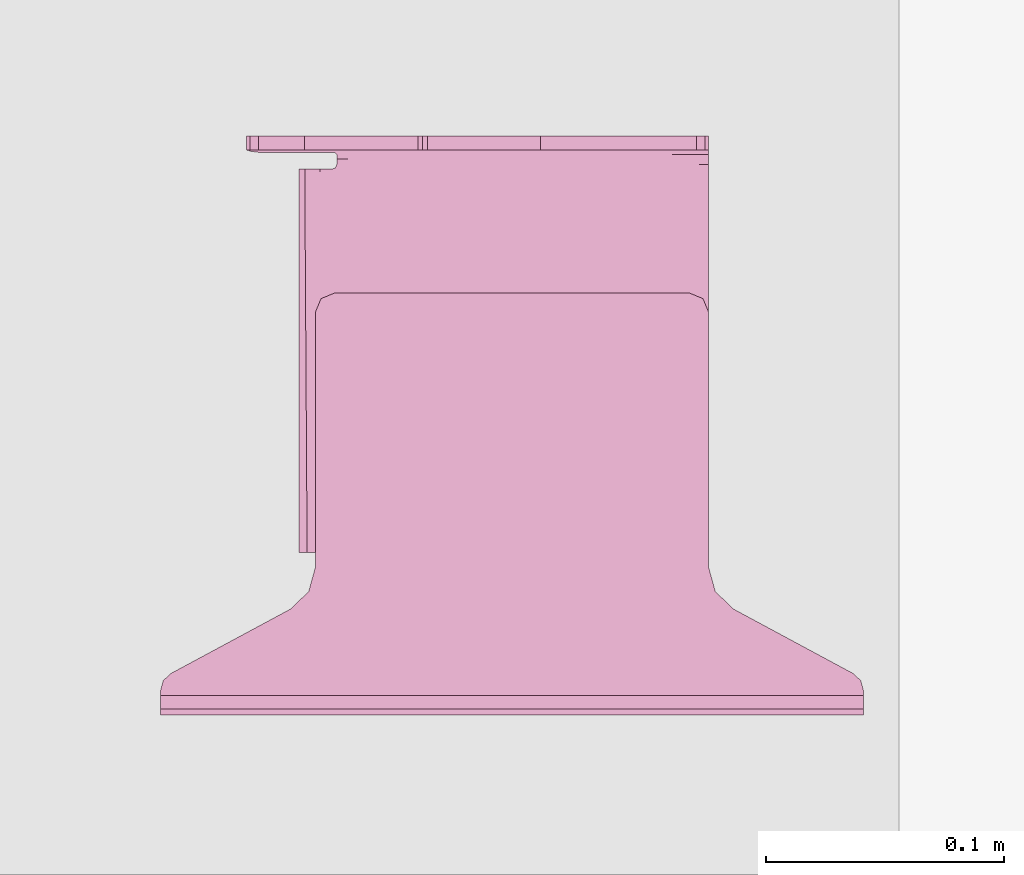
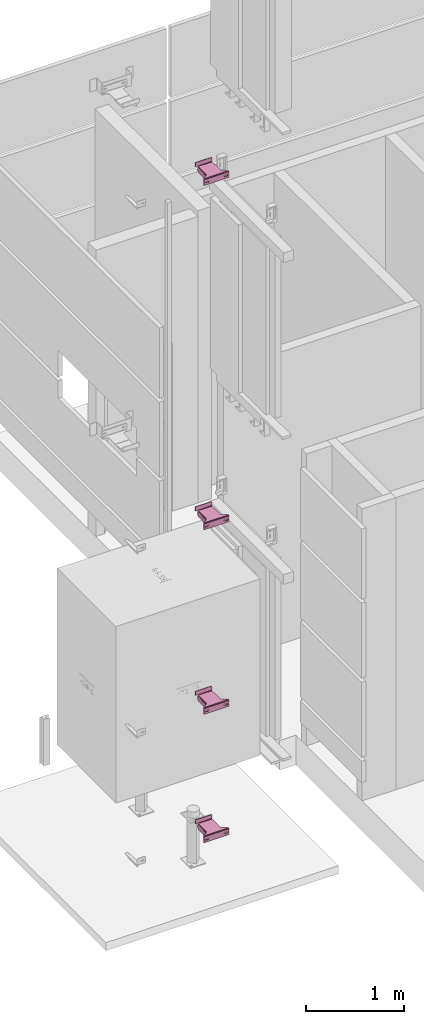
# One storey, part 11 of 15: 4 transport elements.
"""IFC2X3 building model written with IfcOpenShell, lengths in millimetres."""

from ifc_helpers import new_model, entity, si_unit, converted_unit, derived_unit, direction, frame, origin, place, context, subcontext, project, spatial, faceted_brep, source, transform, mapped, material, type_object, type_shapes, element, save


model = new_model("IFC2X3")

# Units and contexts
model_context = context("Model", 3, precision=0.01, world=origin(), true_north=direction((6.12303176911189e-17, 1.0)))
body_context = subcontext(model_context, "Body", "Model", "MODEL_VIEW")
ifc_project = project(units=[si_unit("LENGTHUNIT", "METRE", prefix="MILLI"), si_unit("AREAUNIT", "SQUARE_METRE"), si_unit("VOLUMEUNIT", "CUBIC_METRE"), converted_unit("PLANEANGLEUNIT", "DEGREE", entity("IfcRatioMeasure", 0.0174532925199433), si_unit("PLANEANGLEUNIT", "RADIAN"), dimensions=[0, 0, 0, 0, 0, 0, 0]), si_unit("MASSUNIT", "GRAM", prefix="KILO"), derived_unit("MASSDENSITYUNIT", [(si_unit("MASSUNIT", "GRAM", prefix="KILO"), 1), (si_unit("LENGTHUNIT", "METRE"), -3)]), si_unit("TIMEUNIT", "SECOND"), si_unit("FREQUENCYUNIT", "HERTZ"), si_unit("THERMODYNAMICTEMPERATUREUNIT", "DEGREE_CELSIUS"), derived_unit("THERMALTRANSMITTANCEUNIT", [(si_unit("MASSUNIT", "GRAM", prefix="KILO"), 1), (si_unit("THERMODYNAMICTEMPERATUREUNIT", "KELVIN"), -1), (si_unit("TIMEUNIT", "SECOND"), -3)]), derived_unit("VOLUMETRICFLOWRATEUNIT", [(si_unit("LENGTHUNIT", "METRE"), 3), (si_unit("TIMEUNIT", "SECOND"), -1)]), si_unit("ELECTRICCURRENTUNIT", "AMPERE"), si_unit("ELECTRICVOLTAGEUNIT", "VOLT"), si_unit("POWERUNIT", "WATT"), si_unit("FORCEUNIT", "NEWTON", prefix="KILO"), si_unit("ILLUMINANCEUNIT", "LUX"), si_unit("LUMINOUSFLUXUNIT", "LUMEN"), si_unit("LUMINOUSINTENSITYUNIT", "CANDELA"), derived_unit("USERDEFINED", [(si_unit("MASSUNIT", "GRAM", prefix="KILO"), -1), (si_unit("LENGTHUNIT", "METRE"), -2), (si_unit("TIMEUNIT", "SECOND"), 3), (si_unit("LUMINOUSFLUXUNIT", "LUMEN"), 1)]), derived_unit("LINEARVELOCITYUNIT", [(si_unit("LENGTHUNIT", "METRE"), 1), (si_unit("TIMEUNIT", "SECOND"), -1)]), si_unit("PRESSUREUNIT", "PASCAL"), derived_unit("USERDEFINED", [(si_unit("LENGTHUNIT", "METRE"), -2), (si_unit("MASSUNIT", "GRAM", prefix="KILO"), 1), (si_unit("TIMEUNIT", "SECOND"), -2)])], contexts=[model_context])

# Site, building, storey
site_placement = place(None, frame((-151.875543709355, 2715.0, 0.0)))
site = spatial("IfcSite", under=ifc_project, at=site_placement, Name="Surface", CompositionType="ELEMENT")
building_placement = place(site_placement, origin())
building = spatial("IfcBuilding", under=site, at=building_placement, CompositionType="ELEMENT")
storey_placement = place(building_placement, frame((0.0, 0.0, -135.0)))
storey = spatial("IfcBuildingStorey", under=building, at=storey_placement, Name="uus 1 korrus", CompositionType="ELEMENT", Elevation=-134.99999999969)

# Transport element
ifc_material = material(Name="Generic")
transport_element_type = type_object("IfcTransportElementType", Name="KONE_Combination_Bracket_KM51029396V002_L184-394_LH", material=ifc_material)
shared_shape = source(origin(), body_context, "Body", "Brep", [
    faceted_brep([(194.368600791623, 50.557014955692, -243.0), (197.904134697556, 49.0925488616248, -243.0), (199.368600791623, 45.5570149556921, -243.0), (199.368600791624, 2.55701495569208, -243.0), (5.401799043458, 2.55701495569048, -243.0), (5.37690725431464, 2.84414737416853, -243.0), (5.36860079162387, 3.13223699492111, -243.0), (5.36860079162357, 45.5570149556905, -243.0), (6.83306688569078, 49.0925488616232, -243.0), (10.3686007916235, 50.5570149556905, -243.0), (25.7152888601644, 50.5570149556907, -243.0), (29.8686007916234, 49.0570149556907, -243.0), (34.0219127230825, 50.5570149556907, -243.0), (77.3686007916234, 50.5570149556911, -243.0), (79.3686007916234, 48.5570149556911, -243.0), (81.3686007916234, 50.5570149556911, -243.0), (124.715288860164, 50.5570149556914, -243.0), (128.868600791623, 49.0570149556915, -243.0), (133.021912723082, 50.5570149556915, -243.0), (5.40179904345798, 2.55701495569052, -240.954929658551), (5.40179904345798, 2.55701495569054, -238.909859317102), (5.40179904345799, 2.55701495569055, -237.0), (5.37690725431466, 2.84414737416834, -237.0), (5.36860079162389, 3.13223699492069, -237.0), (39.3686007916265, -9.44298504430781, -68.0), (39.3686007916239, -9.44298504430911, -229.0), (41.3686007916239, -9.4429850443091, -229.0), (42.7828143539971, -9.44298504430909, -229.585786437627), (43.3686007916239, -9.4429850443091, -231.0), (199.368600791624, -9.44298504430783, -231.0), (199.368600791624, -9.44298504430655, -73.0), (197.904134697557, -9.44298504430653, -69.4644660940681), (194.368600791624, -9.44298504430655, -68.0), (33.3686007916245, -61.9785189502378, -81.535533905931), (33.3686007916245, -63.0623827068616, -83.1576506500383), (33.3686007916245, -63.442985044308, -85.0710678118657), (33.3686007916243, -63.442985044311, -211.928932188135), (33.3686007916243, -63.0623827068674, -213.84234934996), (33.3686007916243, -61.9785189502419, -215.464466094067), (33.3686007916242, -49.9074511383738, -227.535533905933), (33.3686007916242, -48.2853343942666, -228.619397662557), (33.3686007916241, -46.3719172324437, -229.0), (33.3686007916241, -37.0182070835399, -229.0), (33.3686007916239, -15.4429850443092, -229.0), (33.3686007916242, -15.4429850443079, -68.0), (33.3686007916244, -46.3719172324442, -68.0), (33.3686007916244, -48.2853343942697, -68.3806023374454), (33.3686007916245, -49.9074511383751, -69.4644660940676), (41.3686007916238, -3.8111214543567, -241.170881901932), (199.368600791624, -5.92826641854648, -239.485281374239), (6.40766390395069, -1.13745775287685, -242.417130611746), (10.3686007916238, -3.81112145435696, -241.170881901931), (8.29850844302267, -2.41379275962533, -241.822205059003), (43.3686007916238, -8.59019143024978, -235.442948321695), (43.3686007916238, -6.15302007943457, -239.254410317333), (43.1522088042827, -5.4728628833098, -239.865440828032), (42.912766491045, -4.72025455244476, -240.541559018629), (42.1406836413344, -4.26568800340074, -240.85622046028), (34.6248743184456, -11.7691506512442, -229.0), (35.1259601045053, -11.2003443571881, -68.0), (37.867620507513, -9.63376322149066, -229.0), (38.612072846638, -9.49087067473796, -229.0), (5.36860079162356, 45.5570149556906, -237.0), (6.8330668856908, 49.0925488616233, -237.0), (10.3686007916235, 50.5570149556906, -237.0), (199.368600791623, 45.5570149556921, -237.0), (199.368600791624, 2.55701495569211, -237.0), (199.368600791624, -1.68562573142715, -235.24264068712), (199.368600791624, -3.44298504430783, -231.0), (199.368600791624, -3.44298504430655, -73.0), (194.368600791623, 50.5570149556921, -237.0), (197.904134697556, 49.0925488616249, -237.0), (124.715288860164, 50.5570149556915, -237.0), (81.3686007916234, 50.5570149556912, -237.0), (133.021912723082, 50.5570149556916, -237.0), (77.3686007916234, 50.5570149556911, -237.0), (34.0219127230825, 50.5570149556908, -237.0), (25.7152888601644, 50.5570149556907, -237.0), (128.868600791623, 49.0570149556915, -237.0), (79.3686007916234, 48.5570149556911, -237.0), (29.8686007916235, 49.0570149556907, -237.0), (39.3686007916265, -6.44298504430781, -68.0), (194.368600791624, -3.44298504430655, -68.0), (39.3686007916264, -3.44298504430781, -68.0), (30.883319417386, -6.9577036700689, -68.0), (27.3686007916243, -15.4429850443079, -68.0), (27.3686007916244, -46.3719172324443, -68.0), (197.904134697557, -3.44298504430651, -69.4644660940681), (27.3686007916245, -46.3719172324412, -229.0), (27.3686007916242, -48.2853343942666, -228.619397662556), (27.3686007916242, -49.9074511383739, -227.535533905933), (27.3686007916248, -61.9785189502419, -215.464466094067), (27.3686007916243, -63.4429850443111, -211.928932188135), (27.3686007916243, -63.0623827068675, -213.84234934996), (27.368600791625, -63.442985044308, -85.0710678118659), (27.3686007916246, -63.0623827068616, -83.1576506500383), (27.3686007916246, -61.9785189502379, -81.5355339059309), (27.3686007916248, -49.9074511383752, -69.4644660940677), (27.3686007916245, -48.2853343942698, -68.3806023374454), (42.782814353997, -3.44298504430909, -229.585786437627), (41.3686007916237, -3.44298504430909, -229.0), (39.3686007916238, -3.44298504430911, -229.0), (43.3686007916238, -3.44298504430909, -231.0), (27.3686007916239, -15.4429850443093, -229.0), (27.3686007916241, -37.01820708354, -229.0), (41.3686007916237, -0.62705324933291, -236.085440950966), (6.19050436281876, 1.51354044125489, -236.776221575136), (7.26141212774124, 0.0967058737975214, -236.472374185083), (10.3686007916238, -0.627053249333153, -236.085440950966), (43.3686007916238, -3.01658823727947, -233.221474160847), (43.3686007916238, -1.79800256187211, -235.127205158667), (42.6856009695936, -0.938930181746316, -235.876306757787), (29.8811478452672, -8.09531625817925, -229.0), (36.366640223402, -3.82454139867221, -229.0), (37.855544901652, -3.53875630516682, -229.0), (30.3686007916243, -37.01820708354, -229.0), (30.368600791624, -15.4429850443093, -229.0), (37.1171303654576, -6.72915231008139, -229.0), (10.3686007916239, -2.7497653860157, -239.475734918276), (41.3686007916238, -3.03001105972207, -239.923329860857), (41.3686007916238, -1.68840931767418, -237.780587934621), (10.3686007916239, -1.68840931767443, -237.780587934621), (43.3686007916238, -2.86998689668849, -236.143113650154), (43.3686007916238, -4.70134757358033, -237.878675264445), (42.9506306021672, -3.05278886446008, -238.263482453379), (42.3310011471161, -2.020127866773, -237.825190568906), (42.96220815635, -2.04723230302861, -236.93741785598), (42.2377280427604, -2.95461684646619, -239.328855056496), (8.43695178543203, -1.96418230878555, -239.076862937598), (6.5068444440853, 0.111398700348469, -238.170030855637), (6.58437608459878, -0.560185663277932, -239.802254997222), (8.3377752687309, -1.05787869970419, -237.540730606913)], [[[0, 1, 2, 3, 4, 5, 6, 7, 8, 9, 10, 11, 12, 13, 14, 15, 16, 17, 18]], [[19, 20, 21, 22, 5, 4]], [[22, 23, 6, 5]], [[24, 25, 26, 27, 28, 29, 30, 31, 32]], [[33, 34, 35, 36, 37, 38, 39, 40, 41, 42, 43, 44, 45, 46, 47]], [[3, 48, 4]], [[48, 3, 49]], [[48, 50, 4]], [[48, 51, 52, 50]], [[49, 29, 53]], [[53, 29, 28]], [[49, 53, 54]], [[49, 54, 55, 56]], [[49, 56, 57, 48]], [[58, 59, 44]], [[44, 43, 58]], [[58, 60, 59]], [[61, 24, 60]], [[59, 60, 24]], [[24, 61, 25]], [[7, 62, 63, 8]], [[63, 64, 9, 8]], [[6, 23, 62, 7]], [[65, 66, 67, 68, 69, 30, 29, 49, 3, 2]], [[0, 70, 71, 1]], [[71, 65, 2, 1]], [[72, 16, 15, 73]], [[0, 18, 74, 70]], [[75, 13, 12, 76]], [[10, 9, 64, 77]], [[17, 78, 74, 18]], [[16, 72, 78, 17]], [[15, 14, 79, 73]], [[75, 79, 14, 13]], [[11, 80, 76, 12]], [[10, 77, 80, 11]], [[81, 32, 82]], [[32, 81, 24]], [[81, 82, 83]], [[59, 24, 81]], [[83, 84, 81]], [[81, 84, 59]], [[84, 85, 59]], [[59, 85, 44]], [[85, 45, 44]], [[45, 85, 86]], [[30, 69, 87, 31]], [[87, 82, 32, 31]], [[88, 41, 40, 89]], [[40, 39, 90, 89]], [[39, 38, 91, 90]], [[36, 92, 93, 37]], [[93, 91, 38, 37]], [[94, 92, 36, 35]], [[94, 35, 34, 95]], [[34, 33, 96, 95]], [[97, 96, 33, 47]], [[45, 86, 98, 46]], [[98, 97, 47, 46]], [[66, 65, 71, 70, 74, 78, 72, 73, 79, 75, 76, 80, 77, 64, 63, 62, 23, 22, 21]], [[99, 100, 101, 83, 82, 87, 69, 68, 102]], [[94, 95, 96, 97, 98, 86, 85, 103, 104, 88, 89, 90, 91, 93, 92]], [[21, 105, 66]], [[67, 66, 105]], [[105, 21, 106, 107]], [[108, 105, 107]], [[109, 68, 67]], [[102, 68, 109]], [[110, 109, 67]], [[67, 111, 110]], [[105, 111, 67]], [[85, 84, 112]], [[112, 103, 85]], [[84, 113, 112]], [[113, 83, 114]], [[83, 113, 84]], [[101, 114, 83]], [[115, 88, 104]], [[88, 115, 41]], [[42, 41, 115]], [[115, 104, 103]], [[116, 115, 103]], [[116, 43, 115]], [[42, 115, 43]], [[43, 116, 58]], [[112, 116, 103]], [[112, 58, 116]], [[58, 112, 117]], [[117, 112, 113]], [[114, 117, 113]], [[101, 117, 114]], [[25, 117, 101]], [[25, 101, 100]], [[100, 26, 25]], [[61, 117, 25]], [[60, 117, 61]], [[117, 60, 58]], [[118, 51, 48, 119, 120, 105, 108, 121]], [[54, 53, 28, 102, 109, 110, 122, 123]], [[56, 55, 124]], [[120, 125, 105]], [[126, 122, 110]], [[124, 123, 122]], [[55, 123, 124]], [[125, 124, 126]], [[127, 57, 56]], [[124, 125, 127]], [[127, 119, 57]], [[105, 125, 111]], [[119, 127, 120]], [[127, 125, 120]], [[124, 127, 56]], [[119, 48, 57]], [[111, 125, 126]], [[111, 126, 110]], [[126, 124, 122]], [[55, 54, 123]], [[99, 27, 26, 100]], [[102, 28, 27, 99]], [[128, 118, 121]], [[20, 129, 106]], [[52, 118, 128]], [[52, 130, 50]], [[128, 121, 131]], [[131, 130, 128]], [[19, 130, 20]], [[129, 131, 107]], [[50, 19, 4]], [[50, 130, 19]], [[20, 106, 21]], [[107, 131, 108]], [[52, 128, 130]], [[129, 107, 106]], [[129, 20, 130]], [[52, 51, 118]], [[131, 129, 130]], [[108, 131, 121]]]),
    faceted_brep([(199.368600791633, 0.557014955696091, -169.0), (197.025455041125, 0.557014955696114, -174.656854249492), (191.368600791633, 0.557014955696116, -177.0), (42.3686007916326, 0.557014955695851, -177.0), (36.7117465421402, 0.55701495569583, -174.656854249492), (34.3686007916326, 0.557014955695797, -169.0), (34.3686007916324, 0.557014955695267, -61.945881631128), (32.9537618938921, 0.557014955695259, -56.81801571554), (31.5389229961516, 0.557014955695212, -51.690149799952), (27.3345887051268, 0.557014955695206, -47.6688098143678), (23.8505972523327, 0.557014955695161, -44.3364596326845), (-26.4241977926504, 0.557014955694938, -17.2654161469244), (-29.4995280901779, 0.557014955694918, -14.3239400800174), (-30.6313992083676, 0.557014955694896, -10.2216473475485), (-30.6313992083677, 0.557014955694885, -8.0), (264.368600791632, 0.557014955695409, -8.0), (264.368600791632, 0.55701495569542, -10.221647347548), (263.23672967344, 0.557014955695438, -14.3239400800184), (260.161399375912, 0.557014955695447, -17.2654161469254), (209.886604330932, 0.557014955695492, -44.3364596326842), (206.042441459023, 0.55701495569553, -48.0133047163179), (202.198278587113, 0.557014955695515, -51.6901497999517), (200.6508790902, 0.557014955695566, -57.2984612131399), (199.368600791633, 0.55701495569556, -61.9458816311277), (-30.6313992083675, -77.4429850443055, 0.0), (-29.7527195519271, -79.5643053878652, 0.0), (-27.6313992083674, -80.4429850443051, 0.0), (-10.1313992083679, -55.4429850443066, 0.0), (-17.9256278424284, -41.9429850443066, 0.0), (-30.6313992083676, -7.44298504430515, 0.0), (21.8686007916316, -55.4429850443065, 0.0), (77.3686007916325, -80.442985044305, 0.0), (29.6628294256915, -50.9429850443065, 0.0), (79.3686007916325, -78.4429850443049, 0.0), (21.8686007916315, -37.4429850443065, 0.0), (204.074372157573, -41.9429850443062, 0.0), (154.368600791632, -78.4429850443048, 0.0), (81.3686007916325, -80.4429850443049, 0.0), (152.368600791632, -80.4429850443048, 0.0), (156.368600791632, -80.4429850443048, 0.0), (211.868600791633, -55.4429850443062, 0.0), (261.368600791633, -80.442985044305, 0.0), (243.868600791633, -55.4429850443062, 0.0), (264.368600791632, -77.4429850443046, 0.0), (263.489921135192, -79.5643053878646, 0.0), (251.662829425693, -50.9429850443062, 0.0), (264.368600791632, -7.44298504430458, 0.0), (243.868600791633, -37.4429850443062, 0.0), (211.868600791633, -37.4429850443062, 0.0), (-10.1313992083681, -37.4429850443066, 0.0), (-30.6313992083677, -1.78613079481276, -2.34314575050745), (264.368600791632, -1.78613079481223, -2.34314575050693), (264.368600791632, -4.61455791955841, -5.17157287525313), (-30.6313992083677, -4.61455791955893, -5.17157287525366), (-30.6313992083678, -3.44298504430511, -8.0), (264.368600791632, -3.44298504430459, -8.0), (264.368600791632, -7.44298504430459, -4.0), (-30.6313992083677, -7.44298504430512, -4.0), (264.368600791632, -3.44298504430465, -10.221647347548), (264.368600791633, -77.4429850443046, -4.0), (-30.6313992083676, -3.44298504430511, -10.2216473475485), (-30.6313992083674, -77.4429850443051, -4.0), (23.8505972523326, -3.44298504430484, -44.3364596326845), (-26.4241977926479, -3.44298504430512, -17.2654161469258), (34.3686007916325, -3.44298504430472, -61.945881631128), (32.9537618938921, -3.44298504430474, -56.81801571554), (31.5389229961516, -3.44298504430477, -51.690149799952), (27.6947601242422, -3.4429850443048, -48.0133047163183), (34.3686007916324, -3.44298504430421, -169.0), (42.3686007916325, -3.44298504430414, -177.0), (36.7117465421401, -3.44298504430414, -174.656854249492), (191.368600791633, -3.44298504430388, -177.0), (199.368600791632, -3.44298504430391, -169.0), (197.025455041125, -3.44298504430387, -174.656854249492), (199.368600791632, -3.44298504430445, -61.9458816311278), (209.886604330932, -3.44298504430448, -44.3364596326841), (206.042441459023, -3.44298504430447, -48.0133047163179), (202.198278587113, -3.44298504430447, -51.6901497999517), (200.783439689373, -3.44298504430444, -56.8180157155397), (260.161399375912, -3.44298504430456, -17.2654161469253), (263.23672967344, -3.44298504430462, -14.3239400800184), (-29.499528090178, -3.44298504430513, -14.3239400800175), (-10.1313992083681, -37.4429850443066, -4.0), (21.8686007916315, -37.4429850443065, -4.0), (211.868600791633, -37.4429850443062, -4.0), (243.868600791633, -37.4429850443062, -4.0), (-17.9256278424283, -41.9429850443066, -4.0), (-10.1313992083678, -55.4429850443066, -4.0), (21.8686007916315, -55.4429850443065, -4.0), (243.868600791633, -55.4429850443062, -4.0), (211.868600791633, -55.4429850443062, -4.0), (29.6628294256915, -50.9429850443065, -4.0), (251.662829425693, -50.9429850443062, -4.0), (204.074372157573, -41.9429850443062, -4.0), (-27.6313992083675, -80.4429850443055, -4.0), (-29.7527195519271, -79.5643053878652, -4.0), (77.3686007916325, -80.4429850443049, -4.0), (261.368600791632, -80.4429850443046, -4.0), (263.489921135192, -79.5643053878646, -4.0), (156.368600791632, -80.4429850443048, -4.0), (154.368600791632, -78.4429850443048, -4.0), (79.3686007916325, -78.442985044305, -4.0), (81.3686007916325, -80.4429850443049, -4.0), (152.368600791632, -80.4429850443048, -4.0)], [[[0, 1, 2, 3, 4, 5, 6, 7, 8, 9, 10, 11, 12, 13, 14, 15, 16, 17, 18, 19, 20, 21, 22, 23]], [[24, 25, 26]], [[27, 24, 26]], [[27, 28, 24]], [[28, 29, 24]], [[27, 26, 30]], [[26, 31, 30]], [[32, 30, 31]], [[33, 32, 31]], [[32, 33, 34]], [[33, 35, 34]], [[36, 35, 33]], [[33, 37, 36]], [[38, 36, 37]], [[35, 36, 39]], [[40, 35, 39]], [[40, 39, 41]], [[40, 41, 42]], [[42, 41, 43]], [[41, 44, 43]], [[45, 42, 43]], [[45, 43, 46]], [[29, 34, 46]], [[46, 47, 45]], [[47, 46, 48]], [[48, 46, 34]], [[49, 34, 29]], [[35, 48, 34]], [[49, 29, 28]], [[15, 14, 50, 51]], [[50, 29, 46, 51]], [[52, 53, 54, 55]], [[56, 57, 53, 52]], [[52, 55, 58, 16, 15, 51, 46, 43, 59, 56]], [[14, 13, 60, 54, 53, 57, 61, 24, 29, 50]], [[10, 62, 63, 11]], [[64, 65, 66, 8, 7, 6]], [[66, 67, 62, 10, 9, 8]], [[5, 68, 64, 6]], [[3, 69, 70, 4]], [[70, 68, 5, 4]], [[2, 71, 69, 3]], [[0, 72, 73, 1]], [[73, 71, 2, 1]], [[74, 72, 0, 23]], [[75, 76, 77, 21, 20, 19]], [[77, 78, 74, 23, 22, 21]], [[18, 79, 75, 19]], [[16, 58, 80, 17]], [[80, 79, 18, 17]], [[11, 63, 81, 12]], [[81, 60, 13, 12]], [[74, 78, 77, 76, 75, 79, 80, 58, 55, 54, 60, 81, 63, 62, 67, 66, 65, 64, 68, 70, 69, 71, 73, 72]], [[49, 82, 83, 34]], [[48, 84, 85, 47]], [[28, 86, 82, 49]], [[27, 87, 86, 28]], [[30, 88, 87, 27]], [[42, 89, 90, 40]], [[32, 91, 88, 30]], [[34, 83, 91, 32]], [[45, 92, 89, 42]], [[47, 85, 92, 45]], [[35, 93, 84, 48]], [[40, 90, 93, 35]], [[94, 95, 61]], [[94, 61, 87]], [[88, 94, 87]], [[88, 96, 94]], [[61, 86, 87]], [[61, 57, 86]], [[86, 57, 82]], [[57, 83, 82]], [[56, 83, 57]], [[83, 56, 84]], [[84, 56, 85]], [[92, 85, 56]], [[56, 59, 92]], [[59, 89, 92]], [[59, 97, 89]], [[59, 98, 97]], [[89, 97, 90]], [[97, 99, 90]], [[99, 93, 90]], [[99, 100, 93]], [[101, 93, 100]], [[100, 102, 101]], [[102, 100, 103]], [[96, 91, 101]], [[83, 101, 91]], [[83, 93, 101]], [[96, 88, 91]], [[83, 84, 93]], [[39, 99, 97, 41]], [[94, 96, 31, 26]], [[102, 103, 38, 37]], [[36, 38, 103, 100]], [[101, 102, 37, 33]], [[33, 31, 96, 101]], [[100, 99, 39, 36]], [[41, 97, 98, 44]], [[98, 59, 43, 44]], [[24, 61, 95, 25]], [[95, 94, 26, 25]]]),
    faceted_brep([(-27.6313992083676, -78.4429850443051, -9.0), (-29.7527195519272, -77.5643053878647, -9.0), (-30.6313992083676, -75.4429850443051, -9.0), (-11.1313992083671, -52.4429850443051, -9.0), (22.8686007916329, -52.442985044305, -9.0), (74.3686007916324, -78.4429850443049, -9.0), (-18.0596024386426, -48.4429850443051, -9.0), (-30.6313992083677, -13.4429850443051, -9.0), (-11.1313992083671, -36.4429850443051, -9.0), (-27.6313992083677, -10.4429850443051, -9.0), (-29.7527195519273, -11.3216647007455, -9.0), (22.8686007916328, -36.442985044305, -9.0), (261.368600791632, -10.4429850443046, -9.0), (210.868600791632, -36.4429850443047, -9.0), (244.868600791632, -36.4429850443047, -9.0), (264.368600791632, -13.4429850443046, -9.0), (263.489921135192, -11.3216647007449, -9.0), (251.796804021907, -40.4429850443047, -9.0), (264.368600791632, -75.4429850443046, -9.0), (244.868600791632, -52.4429850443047, -9.0), (261.368600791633, -78.4429850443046, -9.0), (263.489921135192, -77.5643053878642, -9.0), (210.868600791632, -52.4429850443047, -9.0), (159.368600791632, -78.4429850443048, -9.0), (203.940397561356, -48.4429850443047, -9.0), (154.368600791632, -68.4429850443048, -9.0), (29.7968040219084, -40.442985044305, -9.0), (79.3686007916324, -68.4429850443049, -9.0), (149.368600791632, -78.4429850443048, -9.0), (84.3686007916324, -78.4429850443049, -9.0), (-30.6313992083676, -75.4429850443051, -4.0), (-29.7527195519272, -77.5643053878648, -4.0), (-27.6313992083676, -78.4429850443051, -4.0), (-11.1313992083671, -52.4429850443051, -4.0), (-18.0596024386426, -40.4429850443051, -4.0), (-30.6313992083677, -13.4429850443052, -4.0), (22.8686007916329, -52.4429850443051, -4.0), (74.3686007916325, -78.442985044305, -4.0), (29.7968040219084, -48.442985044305, -4.0), (79.3686007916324, -68.4429850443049, -4.0), (22.8686007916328, -36.4429850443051, -4.0), (203.940397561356, -40.4429850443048, -4.0), (154.368600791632, -68.4429850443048, -4.0), (149.368600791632, -78.4429850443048, -4.0), (84.3686007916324, -78.442985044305, -4.0), (159.368600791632, -78.4429850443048, -4.0), (210.868600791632, -52.4429850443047, -4.0), (261.368600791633, -78.4429850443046, -4.0), (244.868600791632, -52.4429850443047, -4.0), (264.368600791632, -75.4429850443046, -4.0), (263.489921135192, -77.5643053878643, -4.0), (251.796804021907, -48.4429850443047, -4.0), (264.368600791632, -13.4429850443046, -4.0), (244.868600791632, -36.4429850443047, -4.0), (261.368600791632, -10.4429850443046, -4.0), (263.489921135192, -11.321664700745, -4.0), (-27.6313992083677, -10.4429850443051, -4.0), (210.868600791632, -36.4429850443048, -4.0), (-11.1313992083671, -36.4429850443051, -4.0), (-29.7527195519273, -11.3216647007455, -4.0)], [[[0, 1, 2]], [[3, 0, 2]], [[3, 4, 0]], [[4, 5, 0]], [[6, 3, 2]], [[2, 7, 6]], [[8, 6, 7]], [[8, 7, 9]], [[7, 10, 9]], [[9, 11, 8]], [[12, 11, 9]], [[11, 12, 13]], [[12, 14, 13]], [[14, 12, 15]], [[15, 12, 16]], [[17, 14, 15]], [[18, 17, 15]], [[17, 18, 19]], [[20, 19, 18]], [[18, 21, 20]], [[20, 22, 19]], [[22, 20, 23]], [[23, 24, 22]], [[23, 25, 24]], [[25, 13, 24]], [[26, 13, 25]], [[25, 27, 26]], [[27, 25, 28]], [[27, 28, 29]], [[27, 5, 26]], [[5, 4, 26]], [[13, 26, 11]], [[30, 31, 32]], [[30, 32, 33]], [[30, 33, 34]], [[34, 35, 30]], [[32, 36, 33]], [[32, 37, 36]], [[38, 36, 37]], [[38, 37, 39]], [[38, 39, 40]], [[39, 41, 40]], [[41, 39, 42]], [[43, 42, 39]], [[44, 43, 39]], [[41, 42, 45]], [[46, 41, 45]], [[45, 47, 46]], [[48, 46, 47]], [[49, 48, 47]], [[47, 50, 49]], [[48, 49, 51]], [[52, 51, 49]], [[52, 53, 51]], [[52, 54, 53]], [[55, 54, 52]], [[56, 40, 54]], [[57, 53, 54]], [[57, 54, 40]], [[58, 40, 56]], [[57, 40, 41]], [[56, 35, 58]], [[56, 59, 35]], [[35, 34, 58]], [[54, 12, 9, 56]], [[7, 2, 30, 35]], [[32, 0, 5, 37]], [[44, 29, 28, 43]], [[45, 23, 20, 47]], [[52, 49, 18, 15]], [[7, 35, 59, 10]], [[59, 56, 9, 10]], [[0, 32, 31, 1]], [[31, 30, 2, 1]], [[18, 49, 50, 21]], [[50, 47, 20, 21]], [[12, 54, 55, 16]], [[55, 52, 15, 16]], [[58, 34, 8]], [[6, 8, 34]], [[33, 3, 6]], [[34, 33, 6]], [[4, 3, 33, 36]], [[48, 19, 22, 46]], [[36, 38, 4]], [[26, 4, 38]], [[40, 11, 26]], [[38, 40, 26]], [[8, 11, 40, 58]], [[13, 14, 53, 57]], [[57, 41, 13]], [[24, 13, 41]], [[46, 22, 24]], [[41, 46, 24]], [[48, 51, 19]], [[17, 19, 51]], [[53, 14, 17]], [[51, 53, 17]], [[39, 37, 5, 27]], [[27, 29, 44, 39]], [[43, 28, 25, 42]], [[23, 45, 42, 25]]]),
])
type_shapes(transport_element_type, [shared_shape])
transport_element_1_placement = place(storey_placement, frame((30677.2491663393, 19660.0, -503.556997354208), z_axis=(0.0, -1.0, 0.0), x_axis=(1.0, 0.0, 0.0)))
element("IfcTransportElement", 1, at=transport_element_1_placement, inside=storey, type_object=transport_element_type, material=ifc_material, Name="KONE_Combination_Bracket_KM51029396V002_L184-394_LH:KONE_Combination_Bracket_KM51029396V002_L184-394_LH", ObjectType="KONE_Combination_Bracket_KM51029396V002_L184-394_LH", CapacityByNumber=0.0, CapacityByWeight=0.0, OperationType="ELEVATOR", context=body_context, shape_type="MappedRepresentation", body=[
    mapped(shared_shape, transform((0.0, 0.0, 0.0), scale=1.0)),
])

# Space
space_placement = place(storey_placement, origin())
space = spatial("IfcSpace", under=storey, at=space_placement, Name="132a", CompositionType="ELEMENT", InteriorOrExteriorSpace="INTERNAL")

# Transport elements
transport_element_2_placement = place(space_placement, frame((30677.2491663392, 19660.0, 1096.44305384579), z_axis=(0.0, -1.0, 0.0), x_axis=(1.0, 0.0, 0.0)))
element("IfcTransportElement", 2, at=transport_element_2_placement, inside=space, type_object=transport_element_type, material=ifc_material, Name="KONE_Combination_Bracket_KM51029396V002_L184-394_LH:KONE_Combination_Bracket_KM51029396V002_L184-394_LH", ObjectType="KONE_Combination_Bracket_KM51029396V002_L184-394_LH", CapacityByNumber=0.0, CapacityByWeight=0.0, OperationType="ELEVATOR", context=body_context, shape_type="MappedRepresentation", body=[
    mapped(shared_shape, transform((0.0, 0.0, 0.0), scale=1.0)),
])
for number, where, z_axis, x_axis in (
    (3, (30677.2491663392, 19660.0, 3396.44312744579), (0.0, -1.0, 0.0), (1.0, 0.0, 0.0)),
    (4, (30677.2491663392, 19660.0, 7686.44326472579), (0.0, -1.0, 0.0), (1.0, 0.0, 0.0)),
):
    element("IfcTransportElement", number, at=place(storey_placement, frame(where, z_axis=z_axis, x_axis=x_axis)), inside=storey, type_object=transport_element_type, material=ifc_material, Name="KONE_Combination_Bracket_KM51029396V002_L184-394_LH:KONE_Combination_Bracket_KM51029396V002_L184-394_LH", ObjectType="KONE_Combination_Bracket_KM51029396V002_L184-394_LH", CapacityByNumber=0.0, CapacityByWeight=0.0, OperationType="ELEVATOR", context=body_context, shape_type="MappedRepresentation", body=[
        mapped(shared_shape, transform((0.0, 0.0, 0.0), scale=1.0)),
    ])

save(model, "model.ifc")
